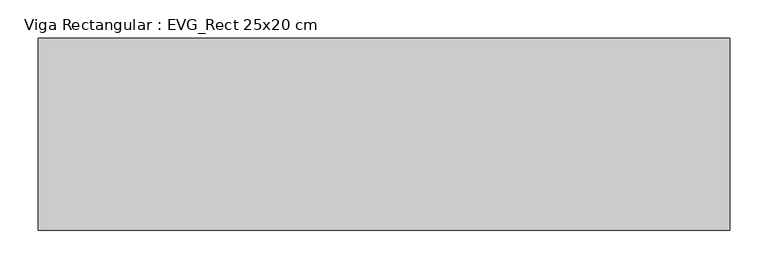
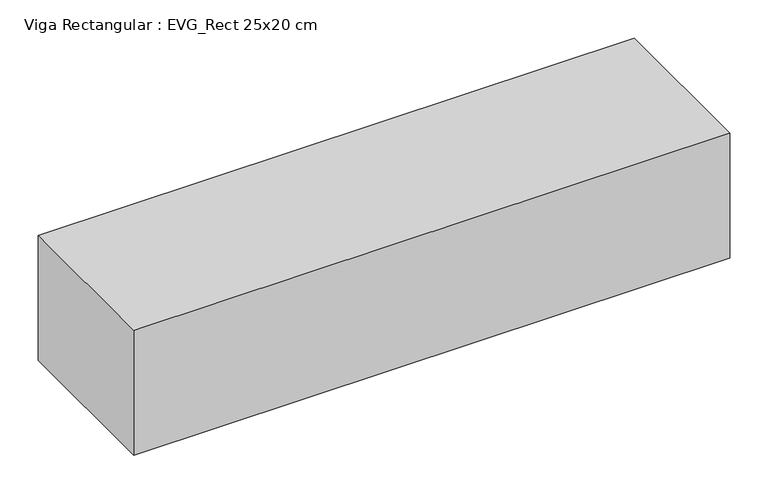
"""IFC4 building model written with IfcOpenShell, lengths in millimetres: beam geometry, Viga Rectangular : EVG_Rect 25x20 cm."""

import ifcopenshell
import ifcopenshell.guid

model = None  # the IFC model being written
_history = None  # IfcOwnerHistory: only IFC2X3 demands one
_inside = {}  # id of a spatial element -> (the spatial element, [elements in it])
_under = {}  # id of a project, library or spatial element -> (it, [spatial elements below it])
_declared = {}  # id of a project -> (the project, [libraries it declares])
_typed = {}  # id of a type object -> (the type object, [elements of that type])
_made_of = {}  # id of a material, layer set ... -> (it, [elements and type objects made of it])


def new_model(schema):
    """Start an empty IFC model of exactly this schema.

    Asked for "IFC4X3", IfcOpenShell would pick the latest addendum, in which some entities
    have other attributes; the version numbers below select the first issue.
    IFC2X3 requires an IfcOwnerHistory on every rooted entity: one is made here for all.
    """
    global model, _history
    if schema == "IFC4X3":
        model = ifcopenshell.file(schema_version=(4, 3, 0, 0))
    else:
        model = ifcopenshell.file(schema=schema)
    _inside.clear()
    _under.clear()
    _declared.clear()
    _typed.clear()
    _made_of.clear()
    _history = None
    if model.schema == "IFC2X3":
        org = make("IfcOrganization", Name="unknown")
        user = make(
            "IfcPersonAndOrganization",
            ThePerson=make("IfcPerson", FamilyName="unknown"),
            TheOrganization=org,
        )
        app = make(
            "IfcApplication",
            ApplicationDeveloper=org,
            Version="unknown",
            ApplicationFullName="unknown",
            ApplicationIdentifier="unknown",
        )
        _history = make(
            "IfcOwnerHistory",
            OwningUser=user,
            OwningApplication=app,
            ChangeAction="ADDED",
            CreationDate=0,
        )
    return model


def make(cls, **values):
    """One entity of the class cls with the attributes given. An attribute that is None is left unset."""
    return model.create_entity(
        cls, **{name: value for name, value in values.items() if value is not None}
    )


def rooted(cls, **values):
    """An entity with a GlobalId (a new one), such as an element, a storey or a relation."""
    return make(cls, GlobalId=ifcopenshell.guid.new(), OwnerHistory=_history, **values)


def si_unit(unit_type, name, prefix=None):
    """IfcSIUnit, for example si_unit("LENGTHUNIT", "METRE", prefix="MILLI")."""
    return make("IfcSIUnit", UnitType=unit_type, Prefix=prefix, Name=name)


def assignment(units):
    """IfcUnitAssignment: the units of a project."""
    return None if units is None else make("IfcUnitAssignment", Units=units)


def point(xyz):
    """IfcCartesianPoint."""
    return None if xyz is None else make("IfcCartesianPoint", Coordinates=xyz)


def direction(xyz):
    """IfcDirection."""
    return None if xyz is None else make("IfcDirection", DirectionRatios=xyz)


def frame(location, z_axis=None, x_axis=None):
    """IfcAxis2Placement3D, a coordinate frame: its origin and axes. An axis left out is left unset."""
    return make(
        "IfcAxis2Placement3D",
        Location=point(location),
        Axis=direction(z_axis),
        RefDirection=direction(x_axis),
    )


def origin():
    """The frame at (0, 0, 0) with its axes left unset."""
    return frame((0.0, 0.0, 0.0))


def place(relative_to, where):
    """IfcLocalPlacement: puts the frame where relative to a parent placement (None: the world)."""
    return make(
        "IfcLocalPlacement", PlacementRelTo=relative_to, RelativePlacement=where
    )


def context(
    kind, dimensions, precision=None, world=None, true_north=None, identifier=None
):
    """IfcGeometricRepresentationContext, for example the 3D "Model" context."""
    return make(
        "IfcGeometricRepresentationContext",
        ContextIdentifier=identifier,
        ContextType=kind,
        CoordinateSpaceDimension=dimensions,
        Precision=precision,
        WorldCoordinateSystem=world,
        TrueNorth=true_north,
    )


def project(units=None, contexts=None):
    """IfcProject with its units and contexts."""
    return rooted(
        "IfcProject",
        Name="project",
        RepresentationContexts=contexts,
        UnitsInContext=assignment(units),
    )


def spatial(cls, under=None, at=None, **own):
    """A site, building, storey or space (cls), placed at a placement, below another one or the project."""
    s = rooted(cls, ObjectPlacement=at, **own)
    if under is not None:
        _under.setdefault(under.id(), (under, []))[1].append(s)
    return s


def polyline(points):
    """IfcPolyline through the points."""
    return make("IfcPolyline", Points=[point(p) for p in points])


def outline(outer, holes=None, kind="AREA"):
    """IfcArbitraryClosedProfileDef: a profile drawn as a closed curve; with holes, ...WithVoids."""
    if holes is None:
        return make("IfcArbitraryClosedProfileDef", ProfileType=kind, OuterCurve=outer)
    return make(
        "IfcArbitraryProfileDefWithVoids",
        ProfileType=kind,
        OuterCurve=outer,
        InnerCurves=holes,
    )


def extrude(swept, where, along, depth):
    """IfcExtrudedAreaSolid: the profile swept, set in the frame where, extruded along a direction by depth."""
    return make(
        "IfcExtrudedAreaSolid",
        SweptArea=swept,
        Position=where,
        ExtrudedDirection=direction(along),
        Depth=depth,
    )


def shape(context_of_items, identifier, shape_type, items):
    """IfcShapeRepresentation: the items that make up one representation, for example the "Body"."""
    return make(
        "IfcShapeRepresentation",
        ContextOfItems=context_of_items,
        RepresentationIdentifier=identifier,
        RepresentationType=shape_type,
        Items=items,
    )


def source(mapping_origin, context_of_items, identifier, shape_type, items):
    """IfcRepresentationMap: a shape defined once, which mapped items show again and again."""
    return make(
        "IfcRepresentationMap",
        MappingOrigin=mapping_origin,
        MappedRepresentation=shape(context_of_items, identifier, shape_type, items),
    )


def transform(
    local_origin,
    x_axis=None,
    y_axis=None,
    z_axis=None,
    scale=None,
    scale2=None,
    scale3=None,
    uniform=True,
):
    """IfcCartesianTransformationOperator3D, or its non-uniform kind. x_axis, y_axis, z_axis: its Axis1, 2, 3."""
    if uniform:
        return make(
            "IfcCartesianTransformationOperator3D",
            Axis1=direction(x_axis),
            Axis2=direction(y_axis),
            LocalOrigin=point(local_origin),
            Scale=scale,
            Axis3=direction(z_axis),
        )
    return make(
        "IfcCartesianTransformationOperator3DnonUniform",
        Axis1=direction(x_axis),
        Axis2=direction(y_axis),
        LocalOrigin=point(local_origin),
        Scale=scale,
        Axis3=direction(z_axis),
        Scale2=scale2,
        Scale3=scale3,
    )


def mapped(mapping_source, mapping_target):
    """IfcMappedItem: shows the shape of a source again, moved by a transform."""
    return make(
        "IfcMappedItem", MappingSource=mapping_source, MappingTarget=mapping_target
    )


def made_of(thing, what):
    """Note that an element or type object is made of a material, layer set ...; save() writes the relation."""
    if what is not None:
        _made_of.setdefault(what.id(), (what, []))[1].append(thing)
    return thing


def element(
    cls,
    number,
    at=None,
    inside=None,
    cuts=None,
    type_object=None,
    material=None,
    context=None,
    identifier="Body",
    shape_type=None,
    held_by="IfcProductDefinitionShape",
    body=None,
    shapes=None,
    **own,
):
    """One element of the class cls, such as IfcWall. Its Tag is "e" and its number.

    at: its placement. inside: the storey or other place that contains it. cuts: it is an
    opening in that element (IfcRelVoidsElement). A single representation is given by context,
    identifier, shape_type and body (its items); several are given by shapes. held_by: the class
    of the entity that holds the representations. save() writes the other relations.
    """
    e = rooted(cls, Tag="e%d" % number, ObjectPlacement=at, **own)
    if body is not None:
        shapes = [shape(context, identifier, shape_type, body)]
    if shapes is not None:
        e.Representation = make(held_by, Representations=shapes)
    if inside is not None:
        _inside.setdefault(inside.id(), (inside, []))[1].append(e)
    if cuts is not None:
        rooted(
            "IfcRelVoidsElement", RelatingBuildingElement=cuts, RelatedOpeningElement=e
        )
    if type_object is not None:
        _typed.setdefault(type_object.id(), (type_object, []))[1].append(e)
    return made_of(e, material)


def aggregate(whole, parts):
    """IfcRelAggregates: a whole, such as a stair, and the parts it consists of."""
    return rooted("IfcRelAggregates", RelatingObject=whole, RelatedObjects=parts)


def save(model, path):
    """Write the relations noted so far, then the file.

    IfcRelAggregates (storeys below a building ...), IfcRelContainedInSpatialStructure (elements
    in a storey), IfcRelDefinesByType, IfcRelAssociatesMaterial and IfcRelDeclares: one each for
    every whole, place, type object, material and project.
    """
    for whole, parts in _under.values():
        aggregate(whole, parts)
    for where, things in _inside.values():
        rooted(
            "IfcRelContainedInSpatialStructure",
            RelatedElements=things,
            RelatingStructure=where,
        )
    for kind, things in _typed.values():
        rooted("IfcRelDefinesByType", RelatedObjects=things, RelatingType=kind)
    for what, things in _made_of.values():
        rooted("IfcRelAssociatesMaterial", RelatedObjects=things, RelatingMaterial=what)
    for by, libraries in _declared.values():
        rooted("IfcRelDeclares", RelatingContext=by, RelatedDefinitions=libraries)
    model.write(path)


def viga_rectangular_evg_rect_25x20_cm_8c2ecc8d(model_context):
    return source(origin(), model_context, "Body", "SweptSolid", [
        extrude(outline(polyline([(450.0, 125.0), (450.0, -125.0), (-450.0, -125.0), (-450.0, 125.0), (450.0, 125.0)])), frame((0.0, 0.0, -200.0), z_axis=(0.0, 0.0, 1.0), x_axis=(1.0, 0.0, 0.0)), (0.0, 0.0, 1.0), 200.0),
    ])


if __name__ == "__main__":
    model = new_model("IFC4")
    model_context = context("Model", 3, world=origin())
    ifc_project = project(units=[si_unit("LENGTHUNIT", "METRE", prefix="MILLI")], contexts=[model_context])
    site = spatial("IfcSite", under=ifc_project)
    building = spatial("IfcBuilding", under=site)
    placement = place(None, origin())
    viga_rectangular_evg_rect_25x20_cm_shape = viga_rectangular_evg_rect_25x20_cm_8c2ecc8d(model_context)
    element("IfcBeam", 1, ObjectType="Viga Rectangular : EVG_Rect 25x20 cm", at=placement, inside=building, context=model_context, shape_type="MappedRepresentation", body=[
        mapped(viga_rectangular_evg_rect_25x20_cm_shape, transform((0.0, 0.0, 0.0), x_axis=(1.0, 0.0, 0.0), y_axis=(0.0, 1.0, 0.0), z_axis=(0.0, 0.0, 1.0))),
    ])
    save(model, "model.ifc")
